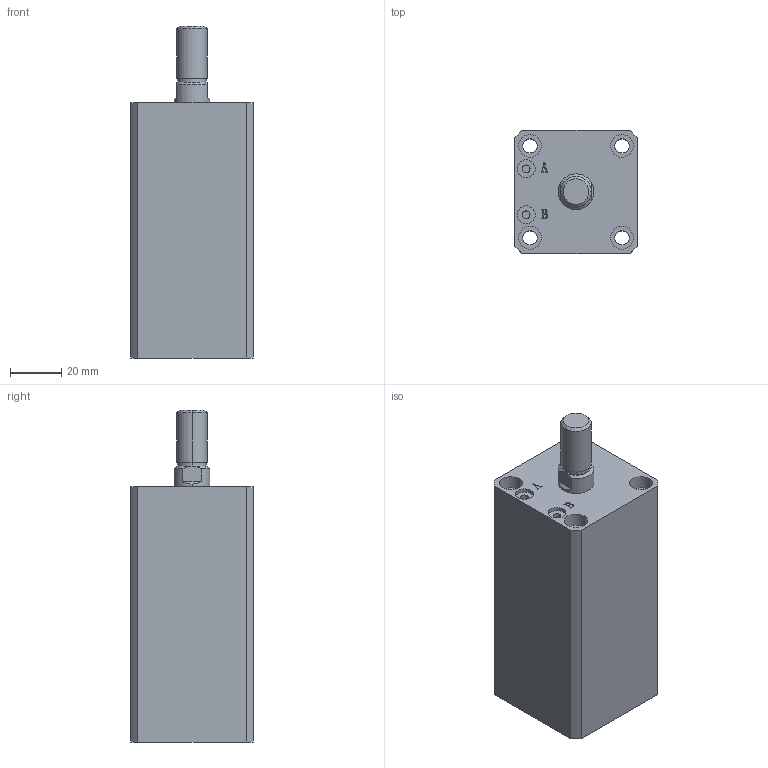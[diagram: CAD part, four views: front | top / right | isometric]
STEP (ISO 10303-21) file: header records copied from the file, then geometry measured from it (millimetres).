
FILE_DESCRIPTION (( 'STEP AP203' ), '1' );
FILE_NAME ('HTB-SDMA25-55W.STEP', '2019-10-07T10:56:14', ( '微软用户' ), ( '微软中国' ), 'SwSTEP 2.0', 'SolidWorks 2012', '' );
FILE_SCHEMA (( 'CONFIG_CONTROL_DESIGN' ));
Length unit declared in the file: millimetre
Products named in the file (3): HTB-SDMA25-55W; HTB-SDMA25-55W活塞杆; HTB-SDMA25-55掛极
Assembly tree (2 placements, depth 2):
  HTB-SDMA25-55W
    HTB-SDMA25-55掛极
    HTB-SDMA25-55W活塞杆
Bounding box: 48 x 48 x 130 mm (x, y, z)
Volume: 202069.9 mm3; surface area: 44559.1 mm2
Topology: 2 solids, 2 shells, 141 faces, 335 edges, 220 vertices
Faces by surface type: plane 67, cylinder 48, bspline 16, torus 6, cone 4
Entity records: 5178 total; most frequent: CARTESIAN_POINT 1609, ORIENTED_EDGE 670, DIRECTION 667, EDGE_CURVE 335, AXIS2_PLACEMENT_3D 242, VERTEX_POINT 220, LINE 183, VECTOR 183
